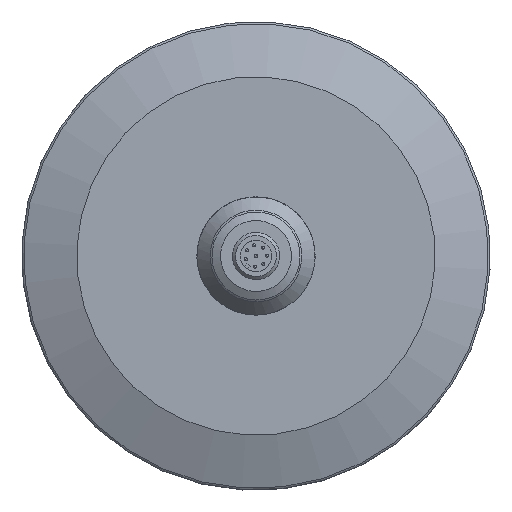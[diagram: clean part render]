
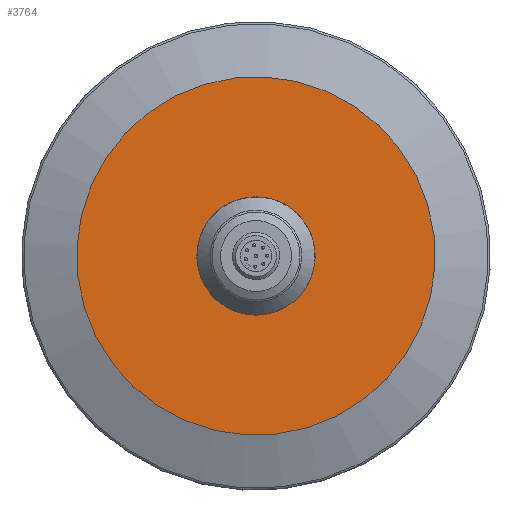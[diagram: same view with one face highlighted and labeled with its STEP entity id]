
A CAD part, front view. The second image highlights one B-rep face of the part: STEP entity #3764.
In plain terms, the highlighted planar face has unit normal (0, -1, 0).
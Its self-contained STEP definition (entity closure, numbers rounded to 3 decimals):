
#594=ORIENTED_EDGE('',*,*,#1332,.F.);
#595=ORIENTED_EDGE('',*,*,#1331,.F.);
#1331=EDGE_CURVE('',#1702,#1702,#1966,.T.);
#1332=EDGE_CURVE('',#1703,#1703,#1967,.T.);
#1702=VERTEX_POINT('',#4610);
#1703=VERTEX_POINT('',#4613);
#1966=CIRCLE('',#3947,45.488);
#1967=CIRCLE('',#3949,15.);
#2039=EDGE_LOOP('',(#594));
#2040=EDGE_LOOP('',(#595));
#2276=FACE_BOUND('',#2039,.T.);
#2277=FACE_BOUND('',#2040,.T.);
#2504=PLANE('',#3948);
#3764=ADVANCED_FACE('',(#2276,#2277),#2504,.T.);
#3947=AXIS2_PLACEMENT_3D('',#4609,#4135,#4136);
#3948=AXIS2_PLACEMENT_3D('',#4611,#4137,#4138);
#3949=AXIS2_PLACEMENT_3D('',#4612,#4139,#4140);
#4135=DIRECTION('',(0.,1.,0.));
#4136=DIRECTION('',(0.115,0.,-0.993));
#4137=DIRECTION('',(0.,-1.,0.));
#4138=DIRECTION('',(-0.115,0.,0.993));
#4139=DIRECTION('',(0.,-1.,0.));
#4140=DIRECTION('',(0.,0.,-1.));
#4609=CARTESIAN_POINT('',(0.,-3.005,0.));
#4610=CARTESIAN_POINT('',(5.24,-3.005,-45.185));
#4611=CARTESIAN_POINT('',(2.62,-3.005,-22.593));
#4612=CARTESIAN_POINT('',(0.,-3.005,0.));
#4613=CARTESIAN_POINT('',(0.,-3.005,-15.));
